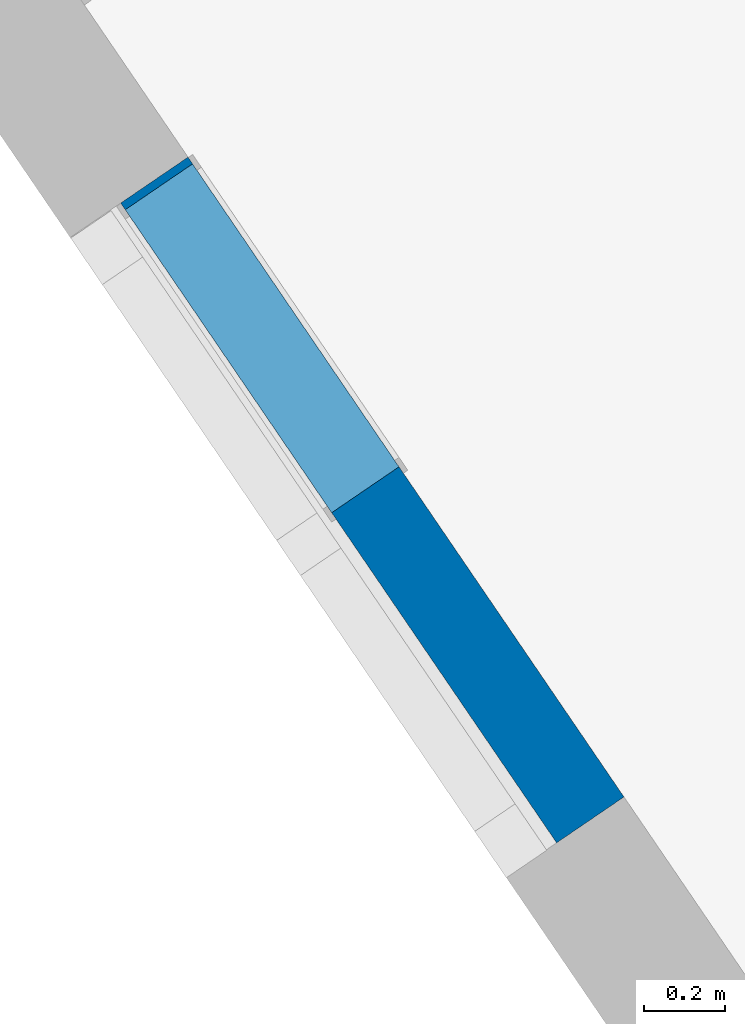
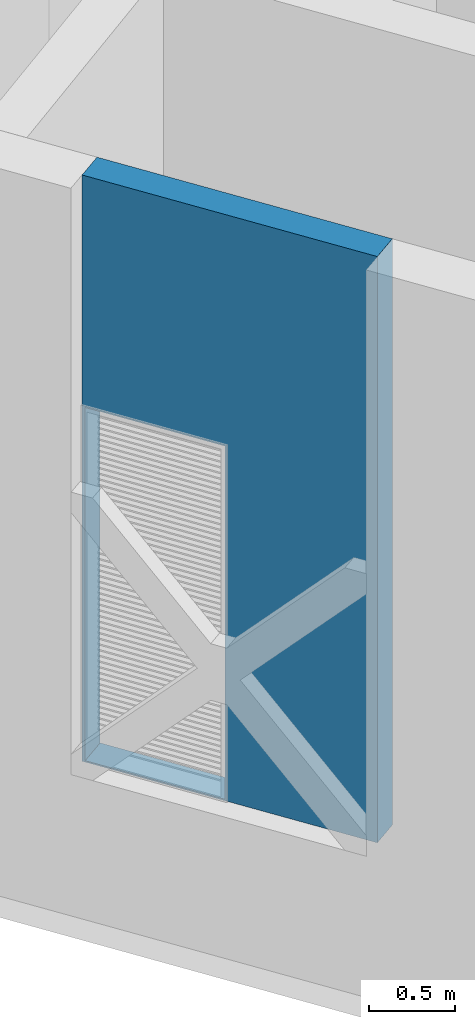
# One storey, part 57 of 157: 1 wall, 1 opening.
"""IFC2X3 building model written with IfcOpenShell, lengths in millimetres."""

from ifc_helpers import new_model, entity, si_unit, converted_unit, derived_unit, direction, frame, frame_2d, origin, place, context, subcontext, project, spatial, rectangle, extrude, material, layer, layer_set, layer_usage, type_object, element, save


model = new_model("IFC2X3")

# Units and contexts
model_context = context("Model", 3, precision=0.01, world=origin(), true_north=direction((6.123031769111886e-17, 1.0)))
body_context = subcontext(model_context, "Body", "Model", "MODEL_VIEW")
ifc_project = project(units=[si_unit("LENGTHUNIT", "METRE", prefix="MILLI"), si_unit("AREAUNIT", "SQUARE_METRE"), si_unit("VOLUMEUNIT", "CUBIC_METRE"), converted_unit("PLANEANGLEUNIT", "DEGREE", entity("IfcRatioMeasure", 0.017453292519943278), si_unit("PLANEANGLEUNIT", "RADIAN"), dimensions=[0, 0, 0, 0, 0, 0, 0]), si_unit("MASSUNIT", "GRAM", prefix="KILO"), derived_unit("MASSDENSITYUNIT", [(si_unit("MASSUNIT", "GRAM", prefix="KILO"), 1), (si_unit("LENGTHUNIT", "METRE"), -3)]), derived_unit("MOMENTOFINERTIAUNIT", [(si_unit("LENGTHUNIT", "METRE"), 4)]), si_unit("TIMEUNIT", "SECOND"), si_unit("FREQUENCYUNIT", "HERTZ"), si_unit("THERMODYNAMICTEMPERATUREUNIT", "DEGREE_CELSIUS"), derived_unit("THERMALTRANSMITTANCEUNIT", [(si_unit("MASSUNIT", "GRAM", prefix="KILO"), 1), (si_unit("THERMODYNAMICTEMPERATUREUNIT", "KELVIN"), -1), (si_unit("TIMEUNIT", "SECOND"), -3)]), derived_unit("THERMALCONDUCTANCEUNIT", [(si_unit("MASSUNIT", "GRAM", prefix="KILO"), 1), (si_unit("LENGTHUNIT", "METRE"), 1), (si_unit("THERMODYNAMICTEMPERATUREUNIT", "KELVIN"), -1), (si_unit("TIMEUNIT", "SECOND"), -3)]), derived_unit("VOLUMETRICFLOWRATEUNIT", [(si_unit("LENGTHUNIT", "METRE"), 3), (si_unit("TIMEUNIT", "SECOND"), -1)]), derived_unit("MASSFLOWRATEUNIT", [(si_unit("MASSUNIT", "GRAM", prefix="KILO"), 1), (si_unit("TIMEUNIT", "SECOND"), -1)]), derived_unit("ROTATIONALFREQUENCYUNIT", [(si_unit("TIMEUNIT", "SECOND"), -1)]), si_unit("ELECTRICCURRENTUNIT", "AMPERE"), si_unit("ELECTRICVOLTAGEUNIT", "VOLT"), si_unit("POWERUNIT", "WATT"), converted_unit("FORCEUNIT", "KIP", entity("IfcRatioMeasure", 2.088543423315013e-05), si_unit("FORCEUNIT", "NEWTON"), dimensions=[1, 1, -2, 0, 0, 0, 0]), si_unit("ILLUMINANCEUNIT", "LUX"), si_unit("LUMINOUSFLUXUNIT", "LUMEN"), si_unit("LUMINOUSINTENSITYUNIT", "CANDELA"), derived_unit("USERDEFINED", [(si_unit("MASSUNIT", "GRAM", prefix="KILO"), -1), (si_unit("LENGTHUNIT", "METRE"), -2), (si_unit("TIMEUNIT", "SECOND"), 3), (si_unit("LUMINOUSFLUXUNIT", "LUMEN"), 1)]), derived_unit("USERDEFINED", [(si_unit("MASSUNIT", "GRAM", prefix="KILO"), 1), (si_unit("LENGTHUNIT", "METRE"), 3), (si_unit("TIMEUNIT", "SECOND"), -3), (si_unit("ELECTRICCURRENTUNIT", "AMPERE"), -2)]), derived_unit("USERDEFINED", [(si_unit("LENGTHUNIT", "METRE"), 2), (si_unit("TIMEUNIT", "SECOND"), -2)]), derived_unit("SOUNDPOWERUNIT", [(si_unit("MASSUNIT", "GRAM", prefix="KILO"), 1), (si_unit("LENGTHUNIT", "METRE"), 2), (si_unit("TIMEUNIT", "SECOND"), -3)]), derived_unit("SOUNDPRESSUREUNIT", [(si_unit("MASSUNIT", "GRAM", prefix="KILO"), 1), (si_unit("LENGTHUNIT", "METRE"), -1), (si_unit("TIMEUNIT", "SECOND"), -2)]), derived_unit("LINEARVELOCITYUNIT", [(si_unit("LENGTHUNIT", "METRE"), 1), (si_unit("TIMEUNIT", "SECOND"), -1)]), si_unit("PRESSUREUNIT", "PASCAL"), derived_unit("USERDEFINED", [(si_unit("LENGTHUNIT", "METRE"), -2), (si_unit("MASSUNIT", "GRAM", prefix="KILO"), 1), (si_unit("TIMEUNIT", "SECOND"), -2)]), derived_unit("LINEARFORCEUNIT", [(si_unit("MASSUNIT", "GRAM", prefix="KILO"), 1), (si_unit("LENGTHUNIT", "METRE"), 1), (si_unit("TIMEUNIT", "SECOND"), -2), (si_unit("LENGTHUNIT", "METRE"), -1)]), derived_unit("PLANARFORCEUNIT", [(si_unit("MASSUNIT", "GRAM", prefix="KILO"), 1), (si_unit("LENGTHUNIT", "METRE"), 1), (si_unit("TIMEUNIT", "SECOND"), -2), (si_unit("LENGTHUNIT", "METRE"), -2)]), derived_unit("SPECIFICHEATCAPACITYUNIT", [(si_unit("LENGTHUNIT", "METRE"), 2), (si_unit("TIMEUNIT", "SECOND"), -2), (si_unit("THERMODYNAMICTEMPERATUREUNIT", "KELVIN"), -1)]), derived_unit("VAPORPERMEABILITYUNIT", [(si_unit("TIMEUNIT", "SECOND"), 1), (si_unit("LENGTHUNIT", "METRE"), -1)]), derived_unit("DYNAMICVISCOSITYUNIT", [(si_unit("MASSUNIT", "GRAM", prefix="KILO"), 1), (si_unit("LENGTHUNIT", "METRE"), -1), (si_unit("TIMEUNIT", "SECOND"), -1)]), derived_unit("THERMALEXPANSIONCOEFFICIENTUNIT", [(si_unit("THERMODYNAMICTEMPERATUREUNIT", "KELVIN"), -1)])], contexts=[model_context])

# Site, building, storey
site_placement = place(None, frame((0.0, 0.0, 0.0), z_axis=(0.0, 0.0, 1.0), x_axis=(0.8191520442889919, 0.5735764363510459, 0.0)))
site = spatial("IfcSite", under=ifc_project, at=site_placement, Name="Default", CompositionType="ELEMENT")
building_placement = place(site_placement, origin())
building = spatial("IfcBuilding", under=site, at=building_placement, CompositionType="ELEMENT")
storey_placement = place(building_placement, origin())
storey = spatial("IfcBuildingStorey", under=building, at=storey_placement, Name="1.EG +0.00", CompositionType="ELEMENT", Elevation=-4.331468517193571e-12)

# Wall, opening
ifc_material = material(Name="Analytical Wall Surface_CJC")
ifc_layer = layer(ifc_material, 200.0)
ifc_layer_set = layer_set([ifc_layer], Name="Basic Wall:Wand_Innen_20")
ifc_layer_usage = layer_usage(ifc_layer_set, "AXIS2", "POSITIVE", -100.0)
wall_type = type_object("IfcWallType", Name="Basic Wall:Wand_Innen_20", PredefinedType="STANDARD", material=ifc_layer_set)
wall_placement = place(storey_placement, frame((-223592.70707583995, 57220.085955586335, 1000.0), z_axis=(0.0, 0.0, 1.0), x_axis=(0.01272958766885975, 0.999918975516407, 0.0)))
wall = element("IfcWallStandardCase", 1, at=wall_placement, inside=storey, type_object=wall_type, material=ifc_layer_usage, Name="Basic Wall:Wand_Innen_20", ObjectType="Basic Wall:Wand_Innen_20", context=body_context, shape_type="SweptSolid", body=[
    extrude(rectangle(XDim=1900.7904899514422, YDim=200.00000000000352, at=frame_2d((950.3952449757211, 5.4569682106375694e-12), x_axis=(-1.0, 0.0))), origin(), (0.0, 0.0, 1.0), 4150.000000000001),
])
opening_placement = place(wall_placement, frame((1880.790489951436, 100.0, 10.0)))
element("IfcOpeningElement", 2, at=opening_placement, cuts=wall, Name="M_Window-Louvers:90x250:1", ObjectType="Opening", context=body_context, shape_type="SweptSolid", body=[
    extrude(rectangle(XDim=2499.999999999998, YDim=899.9999999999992, at=frame_2d((1249.999999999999, 449.9999999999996), x_axis=(-1.0, 0.0))), frame((0.0, 0.0, 0.0), z_axis=(0.0, -1.0, 0.0), x_axis=(0.0, 0.0, 1.0)), (0.0, 0.0, 1.0), 200.0),
])

save(model, "model.ifc")
